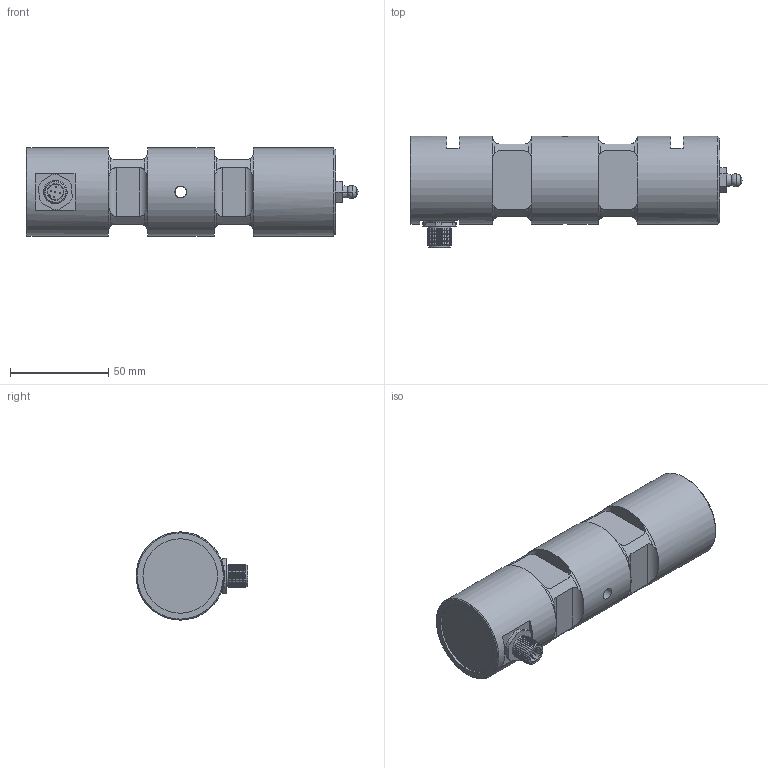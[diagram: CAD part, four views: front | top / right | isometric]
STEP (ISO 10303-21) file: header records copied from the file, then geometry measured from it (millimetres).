
FILE_DESCRIPTION(/* description */ ('Alibre Inc.'),/* implementation_level */ '2;1');
FILE_NAME(/* name */ 'export-416B896A-C064-481E-97F2-797F89665798',/* time_stamp */ '2020-03-19T14:12:37+01:00',/* author */ (''),/* organization */ (''),/* preprocessor_version */ 'ST-DEVELOPER v17',/* originating_system */ 'Alibre',/* authorisation */ '');
FILE_SCHEMA (('CONFIG_CONTROL_DESIGN'));
Length unit declared in the file: centimetre
Bounding box: 169.38 x 57 x 45 mm (x, y, z)
Volume: 355733.6 mm3; surface area: 184546.3 mm2
Topology: 8 solids, 9 shells, 288 faces, 642 edges, 380 vertices
Faces by surface type: cylinder 95, plane 92, cone 79, torus 20, sphere 2
Full cylindrical faces by diameter (mm): 0.5 x10, 6 x4, 8 x2, 9 x1, 10 x1, 11 x1, 11.5 x1, 12 x21, 13 x2, 14.5 x1, 38 x1, 45 x3
Entity records: 7403 total; most frequent: CARTESIAN_POINT 1887, ORIENTED_EDGE 1050, DIRECTION 877, EDGE_CURVE 519, FACE_BOUND 417, EDGE_LOOP 416, AXIS2_PLACEMENT_3D 403, VERTEX_POINT 362
